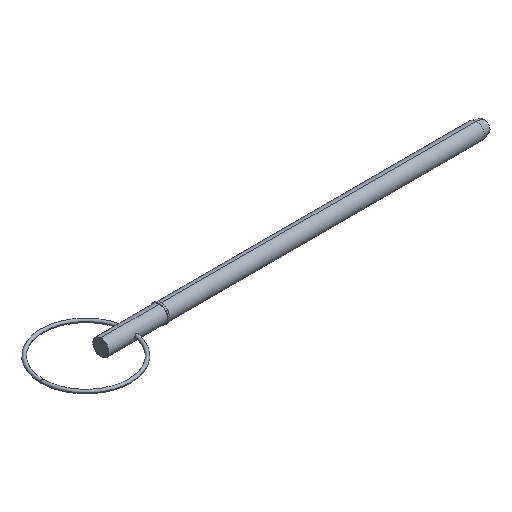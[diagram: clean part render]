
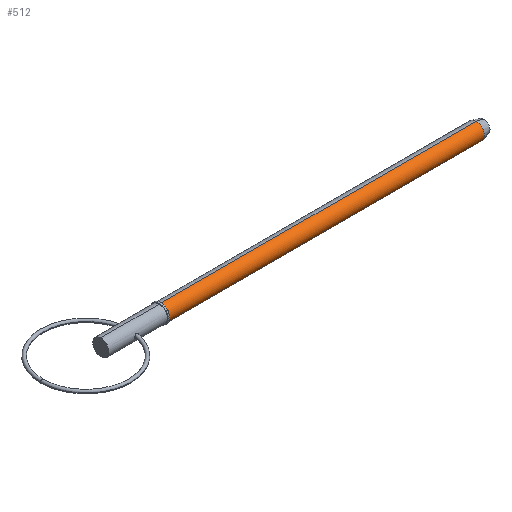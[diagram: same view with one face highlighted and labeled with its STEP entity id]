
A CAD part, isometric view. The second image highlights one B-rep face of the part: STEP entity #512.
In plain terms, the highlighted cylindrical face has radius 2.38 mm (diameter 4.76 mm), a partial arc.
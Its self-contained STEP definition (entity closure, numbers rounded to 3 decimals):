
#10 = DIRECTION ( 'NONE',  ( 0., 0., -1. ) ) ;
#17 = LINE ( 'NONE', #489, #64 ) ;
#23 = DIRECTION ( 'NONE',  ( 1., 0., 0. ) ) ;
#33 = DIRECTION ( 'NONE',  ( 0., 0., -1. ) ) ;
#40 = FACE_OUTER_BOUND ( 'NONE', #705, .T. ) ;
#42 = CARTESIAN_POINT ( 'NONE',  ( 109.209, 0., 0. ) ) ;
#64 = VECTOR ( 'NONE', #23, 1000. ) ;
#87 = DIRECTION ( 'NONE',  ( 1., 0., 0. ) ) ;
#103 = DIRECTION ( 'NONE',  ( 1., 0., 0. ) ) ;
#144 = VERTEX_POINT ( 'NONE', #446 ) ;
#156 = VECTOR ( 'NONE', #290, 1000. ) ;
#184 = CARTESIAN_POINT ( 'NONE',  ( 17.45, 0., 0. ) ) ;
#238 = AXIS2_PLACEMENT_3D ( 'NONE', #184, #87, #10 ) ;
#270 = DIRECTION ( 'NONE',  ( 1., 0., 0. ) ) ;
#290 = DIRECTION ( 'NONE',  ( 1., 0., 0. ) ) ;
#311 = VERTEX_POINT ( 'NONE', #671 ) ;
#372 = ORIENTED_EDGE ( 'NONE', *, *, #665, .T. ) ;
#413 = AXIS2_PLACEMENT_3D ( 'NONE', #773, #103, #33 ) ;
#446 = CARTESIAN_POINT ( 'NONE',  ( 109.209, 0., -2.38 ) ) ;
#464 = EDGE_CURVE ( 'NONE', #556, #669, #17, .T. ) ;
#489 = CARTESIAN_POINT ( 'NONE',  ( 0., 0., 2.38 ) ) ;
#512 = ADVANCED_FACE ( 'NONE', ( #40 ), #761, .T. ) ;
#525 = ORIENTED_EDGE ( 'NONE', *, *, #868, .F. ) ;
#527 = CIRCLE ( 'NONE', #777, 2.38 ) ;
#552 = LINE ( 'NONE', #876, #156 ) ;
#556 = VERTEX_POINT ( 'NONE', #704 ) ;
#562 = DIRECTION ( 'NONE',  ( 0., 0., -1. ) ) ;
#591 = CIRCLE ( 'NONE', #238, 2.38 ) ;
#603 = ORIENTED_EDGE ( 'NONE', *, *, #802, .T. ) ;
#651 = ORIENTED_EDGE ( 'NONE', *, *, #464, .F. ) ;
#665 = EDGE_CURVE ( 'NONE', #556, #311, #591, .T. ) ;
#669 = VERTEX_POINT ( 'NONE', #752 ) ;
#671 = CARTESIAN_POINT ( 'NONE',  ( 17.45, 0., -2.38 ) ) ;
#704 = CARTESIAN_POINT ( 'NONE',  ( 17.45, 0., 2.38 ) ) ;
#705 = EDGE_LOOP ( 'NONE', ( #651, #372, #603, #525 ) ) ;
#752 = CARTESIAN_POINT ( 'NONE',  ( 109.209, 0., 2.38 ) ) ;
#761 = CYLINDRICAL_SURFACE ( 'NONE', #413, 2.38 ) ;
#773 = CARTESIAN_POINT ( 'NONE',  ( 0., 0., 0. ) ) ;
#777 = AXIS2_PLACEMENT_3D ( 'NONE', #42, #270, #562 ) ;
#802 = EDGE_CURVE ( 'NONE', #311, #144, #552, .T. ) ;
#868 = EDGE_CURVE ( 'NONE', #669, #144, #527, .T. ) ;
#876 = CARTESIAN_POINT ( 'NONE',  ( 0., 0., -2.38 ) ) ;
